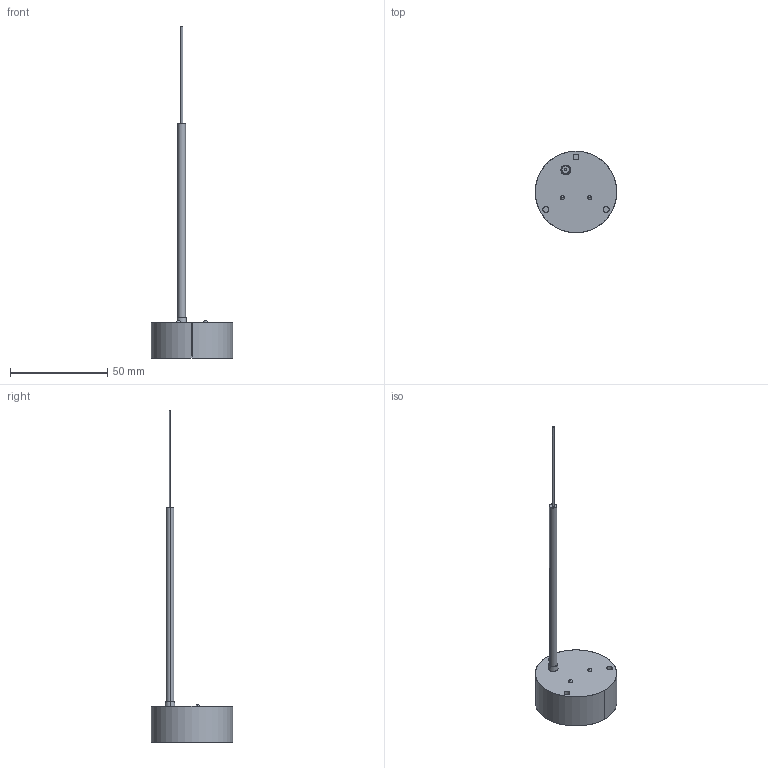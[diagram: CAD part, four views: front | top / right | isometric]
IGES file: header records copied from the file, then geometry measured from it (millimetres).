
Start section: SolidWorks IGES file using analytic representation for surfaces
Global section: file name: C:\Users\Toshiba\Desktop\SR10.IGS; native system: SolidWorks 2014; preprocessor: SolidWorks 2014; author: Toshiba; date: 160621.093708; units: metre
Bounding box: 42 x 42 x 171 mm (x, y, z)
Surface area: 6719.8 mm2 (no closed solid volume)
Topology: 0 solids, 0 shells, 27 faces, 616 edges, 612 vertices
Faces by surface type: revolution 14, bspline 13
